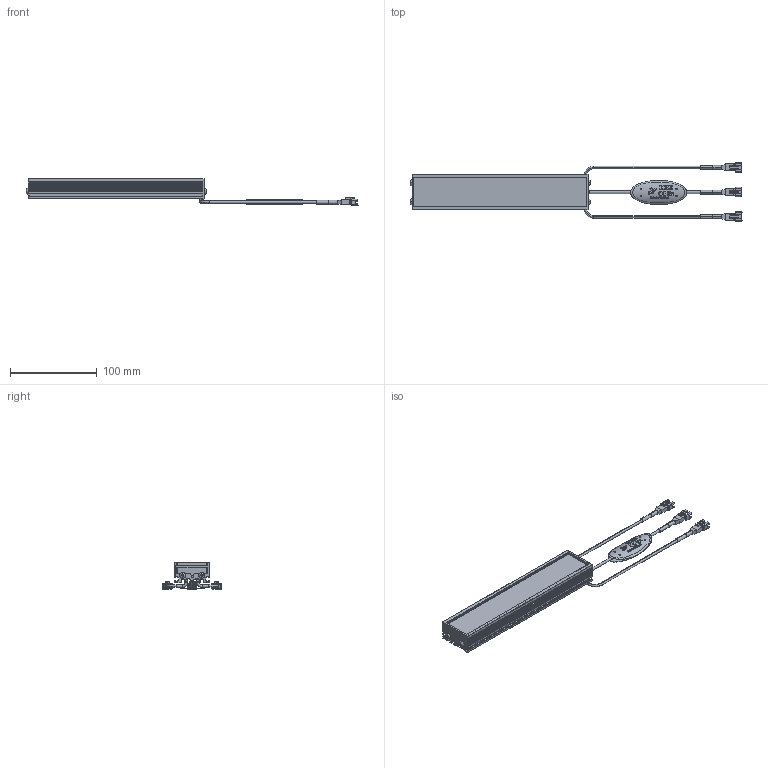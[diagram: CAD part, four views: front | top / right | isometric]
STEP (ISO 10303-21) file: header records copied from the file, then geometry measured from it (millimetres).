
FILE_DESCRIPTION( ('This file contains a STEP AP42 implementation' ,'as created by ZW3D STEP Interface translator.') ,'2;1' );
FILE_NAME( 'VBA-20030RGB-DF_DRAWING_3D.stp' ,'25 911.154222', (''), ('ZWCAD Software Co.'), 'Version 1.0', 'ZW3D to STEP translator', '' );
FILE_SCHEMA(('AUTOMOTIVE_DESIGN { 1 0 10303 214 1 1 1 1 }'));
Length unit declared in the file: millimetre
Products named in the file (1): 0
Bounding box: 383 x 68 x 30.5 mm (x, y, z)
Volume: 97802.8 mm3; surface area: 91018.9 mm2
Topology: 5 solids, 5 shells, 1250 faces, 3705 edges, 2558 vertices
Faces by surface type: plane 808, cylinder 396, torus 24, bspline 22
Full cylindrical faces by diameter (mm): 2 x8, 3 x1
Entity records: 45388 total; most frequent: CARTESIAN_POINT 10702, ORIENTED_EDGE 7390, DIRECTION 6415, EDGE_CURVE 3695, VERTEX_POINT 2538, VECTOR 2503, LINE 2503, AXIS2_PLACEMENT_3D 1956
